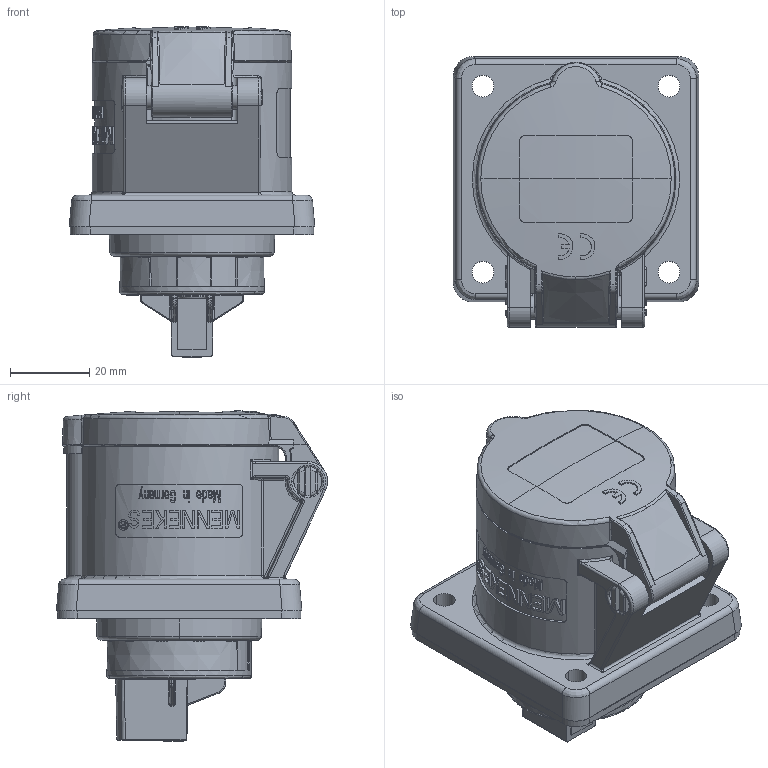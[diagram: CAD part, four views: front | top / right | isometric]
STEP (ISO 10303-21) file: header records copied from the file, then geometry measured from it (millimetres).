
FILE_DESCRIPTION((''),'2;1');
FILE_NAME('1363_SW0002','2017-10-19T',('gisse'),('MENNEKES'),'PRO/ENGINEER BY PARAMETRIC TECHNOLOGY CORPORATION, 2015440','PRO/ENGINEER BY PARAMETRIC TECHNOLOGY CORPORATION, 2015440','');
FILE_SCHEMA(('AUTOMOTIVE_DESIGN { 1 0 10303 214 1 1 1 1 }'));
Length unit declared in the file: millimetre
Products named in the file (1): 1363_SW0002
Bounding box: 62 x 68.5 x 83.61 mm (x, y, z)
Volume: 146678.3 mm3; surface area: 24862.3 mm2
Topology: 1 solids, 1 shells, 1737 faces, 4733 edges, 3067 vertices
Faces by surface type: plane 1232, cylinder 225, bspline 168, torus 61, cone 30, sphere 18, extrusion 3
Entity records: 83094 total; most frequent: CARTESIAN_POINT 21398, ORIENTED_EDGE 9462, DIRECTION 7429, EDGE_CURVE 4731, FILL_AREA_STYLE_COLOUR 3252, FILL_AREA_STYLE 3252, SURFACE_STYLE_FILL_AREA 3252, SURFACE_SIDE_STYLE 3252
